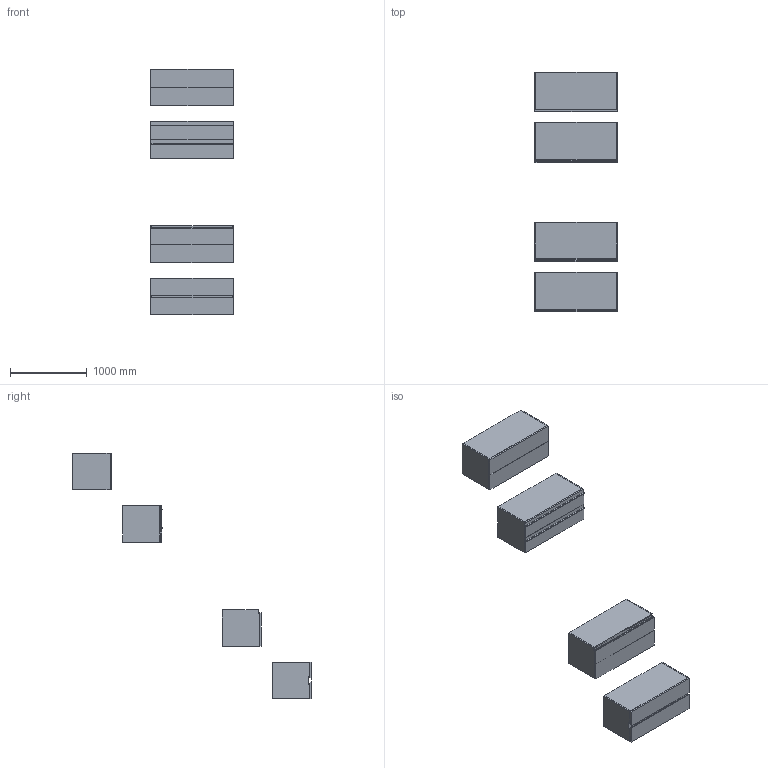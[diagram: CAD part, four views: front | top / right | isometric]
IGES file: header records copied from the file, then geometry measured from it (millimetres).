
Start section: Data from Parasolid IGES Translator 19.0.9, Copyright(c) 2006 Siemens PL M Software. All Rights Reserved.
Global section: file name: noorth-SI-H 48 D 51 W 108_8584.igs; native system: By Siemens PLM Incorporated; preprocessor: XPlus GENERIC/IGES 19.0.9; author: Noname; organization: Noname; date: 20200601.112443; units: metre
Bounding box: 1080 x 3107.1 x 3200.01 mm (x, y, z)
Volume: 137814184.8 mm3; surface area: 21177599.7 mm2
Topology: 33 solids, 33 shells, 318 faces, 700 edges, 428 vertices
Faces by surface type: plane 230, extrusion 36, bspline 32, cylinder 20
